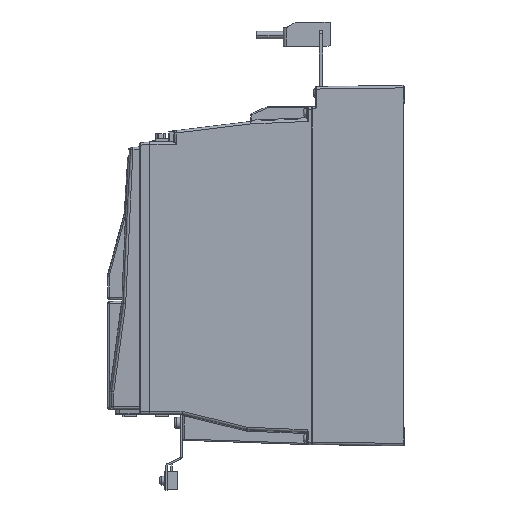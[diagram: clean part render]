
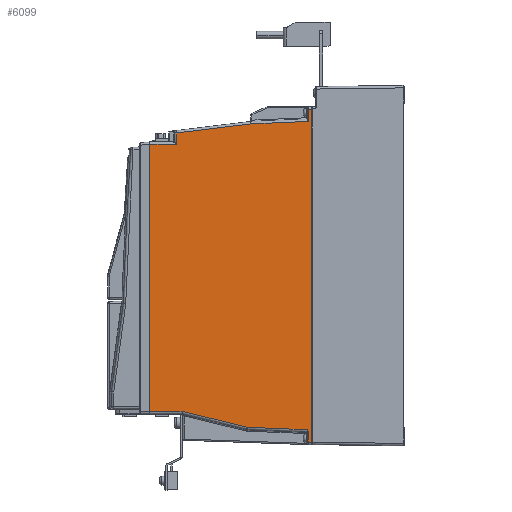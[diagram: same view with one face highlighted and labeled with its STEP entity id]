
A CAD part, left-side view. The second image highlights one B-rep face of the part: STEP entity #6099.
In plain terms, the highlighted planar face has unit normal (-1, 0, 0).
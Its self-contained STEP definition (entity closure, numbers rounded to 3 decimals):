
#1640 = ORIENTED_EDGE ( 'NONE', *, *, #1927, .T. ) ;
#1786 = ORIENTED_EDGE ( 'NONE', *, *, #14975, .T. ) ;
#1927 = EDGE_CURVE ( 'NONE', #37000, #44381, #50488, .T. ) ;
#2670 = PLANE ( 'NONE',  #23566 ) ;
#2863 = DIRECTION ( 'NONE',  ( 0., -0.999, -0.041 ) ) ;
#2897 = CARTESIAN_POINT ( 'NONE',  ( -64., 73.67, -19. ) ) ;
#4142 = EDGE_CURVE ( 'NONE', #44262, #35137, #24815, .T. ) ;
#4327 = ORIENTED_EDGE ( 'NONE', *, *, #39946, .T. ) ;
#4403 = ORIENTED_EDGE ( 'NONE', *, *, #38095, .T. ) ;
#4717 = VECTOR ( 'NONE', #13584, 1000. ) ;
#4813 = ORIENTED_EDGE ( 'NONE', *, *, #29045, .T. ) ;
#5000 = DIRECTION ( 'NONE',  ( 0., 0.999, -0.043 ) ) ;
#5222 = CARTESIAN_POINT ( 'NONE',  ( -64., 204.2, -262.5 ) ) ;
#5376 = VERTEX_POINT ( 'NONE', #15522 ) ;
#5623 = ORIENTED_EDGE ( 'NONE', *, *, #52738, .T. ) ;
#5764 = LINE ( 'NONE', #10333, #48913 ) ;
#6003 = DIRECTION ( 'NONE',  ( 0., 0., 1. ) ) ;
#6099 = ADVANCED_FACE ( 'NONE', ( #36214 ), #2670, .F. ) ;
#6302 = VERTEX_POINT ( 'NONE', #50216 ) ;
#6322 = CARTESIAN_POINT ( 'NONE',  ( -64., 202.8, -262.5 ) ) ;
#6636 = VECTOR ( 'NONE', #40109, 1000. ) ;
#6995 = CARTESIAN_POINT ( 'NONE',  ( -64., 202.8, -289. ) ) ;
#7985 = CARTESIAN_POINT ( 'NONE',  ( -64., 76.733, -278.099 ) ) ;
#8068 = CARTESIAN_POINT ( 'NONE',  ( -64., 182.5, -38.271 ) ) ;
#8274 = CARTESIAN_POINT ( 'NONE',  ( -64., 202.8, -19. ) ) ;
#9188 = VERTEX_POINT ( 'NONE', #11528 ) ;
#9986 = EDGE_CURVE ( 'NONE', #35137, #39700, #47742, .T. ) ;
#10039 = CARTESIAN_POINT ( 'NONE',  ( -64., 232.631, -44.384 ) ) ;
#10333 = CARTESIAN_POINT ( 'NONE',  ( -64., 202.8, -287. ) ) ;
#10477 = ORIENTED_EDGE ( 'NONE', *, *, #11564, .F. ) ;
#10688 = CARTESIAN_POINT ( 'NONE',  ( -64., 76.92, -277.036 ) ) ;
#10696 = CARTESIAN_POINT ( 'NONE',  ( -64., 76.5, -289. ) ) ;
#11304 = DIRECTION ( 'NONE',  ( 1., 0., 0. ) ) ;
#11528 = CARTESIAN_POINT ( 'NONE',  ( -64., 204.2, -47.5 ) ) ;
#11564 = EDGE_CURVE ( 'NONE', #37000, #9188, #30626, .T. ) ;
#11650 = EDGE_LOOP ( 'NONE', ( #42553, #30398, #4813, #43202, #44515, #4327, #5623, #15599, #10477, #1640, #1786, #4403, #16300, #37168 ) ) ;
#11780 = CARTESIAN_POINT ( 'NONE',  ( -64., 76.535, -278.634 ) ) ;
#13584 = DIRECTION ( 'NONE',  ( 0., 0.993, -0.121 ) ) ;
#13642 = CARTESIAN_POINT ( 'NONE',  ( -64., 213.846, -34.952 ) ) ;
#14787 = VERTEX_POINT ( 'NONE', #37474 ) ;
#14975 = EDGE_CURVE ( 'NONE', #44381, #24355, #19589, .T. ) ;
#15522 = CARTESIAN_POINT ( 'NONE',  ( -64., 182.5, -47.5 ) ) ;
#15580 = CARTESIAN_POINT ( 'NONE',  ( -64., 76.652, -278.27 ) ) ;
#15599 = ORIENTED_EDGE ( 'NONE', *, *, #40698, .T. ) ;
#15801 = VECTOR ( 'NONE', #27147, 1000. ) ;
#16300 = ORIENTED_EDGE ( 'NONE', *, *, #4142, .T. ) ;
#17919 = LINE ( 'NONE', #34421, #45863 ) ;
#18586 = VECTOR ( 'NONE', #41758, 1000. ) ;
#19589 = LINE ( 'NONE', #48761, #6636 ) ;
#20371 = CARTESIAN_POINT ( 'NONE',  ( -64., 76.5, -287. ) ) ;
#20541 = CARTESIAN_POINT ( 'NONE',  ( -64., 125.725, -275.044 ) ) ;
#20569 = VECTOR ( 'NONE', #5000, 1000. ) ;
#20790 = VECTOR ( 'NONE', #2863, 1000. ) ;
#22536 = DIRECTION ( 'NONE',  ( 0., -1., 0. ) ) ;
#23445 = CARTESIAN_POINT ( 'NONE',  ( -64., 76.5, -279.014 ) ) ;
#23498 = DIRECTION ( 'NONE',  ( 0., 0., -1. ) ) ;
#23566 = AXIS2_PLACEMENT_3D ( 'NONE', #6995, #11304, #23498 ) ;
#24337 = CARTESIAN_POINT ( 'NONE',  ( -64., 77.5, -277.013 ) ) ;
#24355 = VERTEX_POINT ( 'NONE', #20541 ) ;
#24500 = CARTESIAN_POINT ( 'NONE',  ( -64., 76.5, -279.014 ) ) ;
#24815 = B_SPLINE_CURVE_WITH_KNOTS ( 'NONE', 3,
 ( #36931, #32628, #44760, #7985, #15580, #11780, #45287, #24500 ),
 .UNSPECIFIED., .F., .F.,
 ( 4, 2, 2, 4 ),
 ( 0., 0.001, 0.002, 0.002 ),
 .UNSPECIFIED. ) ;
#27147 = DIRECTION ( 'NONE',  ( 0., -1., 0. ) ) ;
#27210 = DIRECTION ( 'NONE',  ( 0., 0., -1. ) ) ;
#28277 = VERTEX_POINT ( 'NONE', #47120 ) ;
#29045 = EDGE_CURVE ( 'NONE', #49196, #45505, #44513, .T. ) ;
#29600 = LINE ( 'NONE', #13642, #20569 ) ;
#29717 = EDGE_CURVE ( 'NONE', #49196, #28277, #34462, .T. ) ;
#30398 = ORIENTED_EDGE ( 'NONE', *, *, #29717, .F. ) ;
#30613 = VECTOR ( 'NONE', #39721, 1000. ) ;
#30626 = LINE ( 'NONE', #5222, #37540 ) ;
#30993 = EDGE_CURVE ( 'NONE', #39700, #28277, #5764, .T. ) ;
#32628 = CARTESIAN_POINT ( 'NONE',  ( -64., 77.259, -277.308 ) ) ;
#33834 = CARTESIAN_POINT ( 'NONE',  ( -64., 204.2, -262.5 ) ) ;
#33966 = VECTOR ( 'NONE', #27210, 1000. ) ;
#34421 = CARTESIAN_POINT ( 'NONE',  ( -64., 182.5, -289. ) ) ;
#34462 = LINE ( 'NONE', #50665, #18586 ) ;
#35137 = VERTEX_POINT ( 'NONE', #23445 ) ;
#35866 = LINE ( 'NONE', #10688, #20790 ) ;
#36214 = FACE_OUTER_BOUND ( 'NONE', #11650, .T. ) ;
#36931 = CARTESIAN_POINT ( 'NONE',  ( -64., 77.5, -277.013 ) ) ;
#37000 = VERTEX_POINT ( 'NONE', #33834 ) ;
#37168 = ORIENTED_EDGE ( 'NONE', *, *, #9986, .T. ) ;
#37474 = CARTESIAN_POINT ( 'NONE',  ( -64., 76.5, -28.98 ) ) ;
#37540 = VECTOR ( 'NONE', #6003, 1000. ) ;
#38095 = EDGE_CURVE ( 'NONE', #24355, #44262, #35866, .T. ) ;
#39700 = VERTEX_POINT ( 'NONE', #20371 ) ;
#39721 = DIRECTION ( 'NONE',  ( 0., 0., -1. ) ) ;
#39946 = EDGE_CURVE ( 'NONE', #6302, #41544, #50629, .T. ) ;
#40109 = DIRECTION ( 'NONE',  ( 0., -0.972, -0.236 ) ) ;
#40698 = EDGE_CURVE ( 'NONE', #5376, #9188, #49153, .T. ) ;
#41491 = EDGE_CURVE ( 'NONE', #45505, #14787, #51623, .T. ) ;
#41544 = VERTEX_POINT ( 'NONE', #8068 ) ;
#41758 = DIRECTION ( 'NONE',  ( 0., 0., -1. ) ) ;
#42553 = ORIENTED_EDGE ( 'NONE', *, *, #30993, .T. ) ;
#43202 = ORIENTED_EDGE ( 'NONE', *, *, #41491, .T. ) ;
#43774 = CARTESIAN_POINT ( 'NONE',  ( -64., 76.5, -289. ) ) ;
#44262 = VERTEX_POINT ( 'NONE', #24337 ) ;
#44381 = VERTEX_POINT ( 'NONE', #52782 ) ;
#44513 = LINE ( 'NONE', #8274, #45312 ) ;
#44515 = ORIENTED_EDGE ( 'NONE', *, *, #47011, .T. ) ;
#44760 = CARTESIAN_POINT ( 'NONE',  ( -64., 77.016, -277.606 ) ) ;
#44822 = DIRECTION ( 'NONE',  ( 0., 1., 0. ) ) ;
#45287 = CARTESIAN_POINT ( 'NONE',  ( -64., 76.5, -278.822 ) ) ;
#45312 = VECTOR ( 'NONE', #48586, 1000. ) ;
#45505 = VERTEX_POINT ( 'NONE', #49715 ) ;
#45863 = VECTOR ( 'NONE', #50882, 1000. ) ;
#47011 = EDGE_CURVE ( 'NONE', #14787, #6302, #29600, .T. ) ;
#47120 = CARTESIAN_POINT ( 'NONE',  ( -64., 73.67, -287. ) ) ;
#47742 = LINE ( 'NONE', #10696, #33966 ) ;
#48586 = DIRECTION ( 'NONE',  ( 0., 1., 0. ) ) ;
#48667 = VECTOR ( 'NONE', #44822, 1000. ) ;
#48761 = CARTESIAN_POINT ( 'NONE',  ( -64., 125.536, -275.09 ) ) ;
#48913 = VECTOR ( 'NONE', #22536, 1000. ) ;
#49153 = LINE ( 'NONE', #49414, #48667 ) ;
#49196 = VERTEX_POINT ( 'NONE', #2897 ) ;
#49414 = CARTESIAN_POINT ( 'NONE',  ( -64., 202.8, -47.5 ) ) ;
#49715 = CARTESIAN_POINT ( 'NONE',  ( -64., 76.5, -19. ) ) ;
#50216 = CARTESIAN_POINT ( 'NONE',  ( -64., 122.835, -30.995 ) ) ;
#50488 = LINE ( 'NONE', #6322, #15801 ) ;
#50629 = LINE ( 'NONE', #10039, #4717 ) ;
#50665 = CARTESIAN_POINT ( 'NONE',  ( -64., 73.67, -19. ) ) ;
#50882 = DIRECTION ( 'NONE',  ( 0., 0., -1. ) ) ;
#51623 = LINE ( 'NONE', #43774, #30613 ) ;
#52738 = EDGE_CURVE ( 'NONE', #41544, #5376, #17919, .T. ) ;
#52782 = CARTESIAN_POINT ( 'NONE',  ( -64., 177.407, -262.5 ) ) ;
